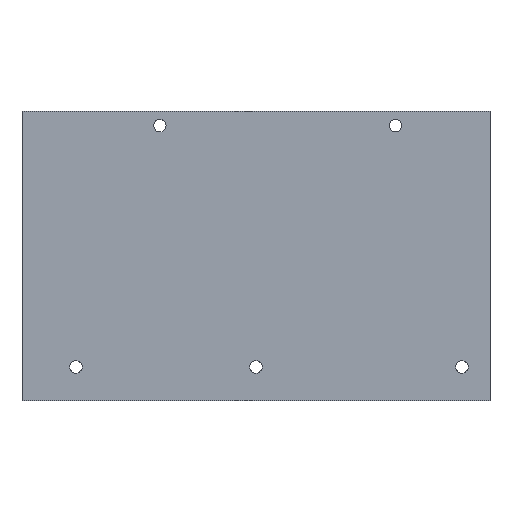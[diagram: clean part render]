
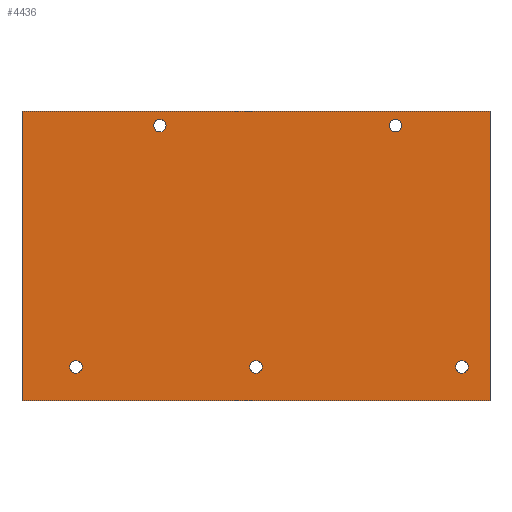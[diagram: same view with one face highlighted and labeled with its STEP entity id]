
A CAD part, front view. The second image highlights one B-rep face of the part: STEP entity #4436.
In plain terms, the highlighted planar face has unit normal (0, -1, 0).
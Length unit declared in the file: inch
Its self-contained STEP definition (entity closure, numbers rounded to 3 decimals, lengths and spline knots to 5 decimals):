
#56 = AXIS2_PLACEMENT_3D ( 'NONE', #238, #1358, #3856 ) ;
#57 = CIRCLE ( 'NONE', #1156, 0.06425 ) ;
#101 = VECTOR ( 'NONE', #191, 39.37008 ) ;
#113 = LINE ( 'NONE', #1483, #101 ) ;
#169 = EDGE_CURVE ( 'NONE', #4396, #678, #497, .T. ) ;
#191 = DIRECTION ( 'NONE',  ( -1., 0., 0. ) ) ;
#200 = VERTEX_POINT ( 'NONE', #3278 ) ;
#212 = DIRECTION ( 'NONE',  ( 0., -1., 0. ) ) ;
#238 = CARTESIAN_POINT ( 'NONE',  ( -0.996, 0.05, 2.85 ) ) ;
#256 = CARTESIAN_POINT ( 'NONE',  ( 1.447, 0.05, 2.85 ) ) ;
#261 = CIRCLE ( 'NONE', #1184, 0.06425 ) ;
#316 = EDGE_CURVE ( 'NONE', #678, #4396, #379, .T. ) ;
#329 = EDGE_CURVE ( 'NONE', #856, #3662, #376, .T. ) ;
#341 = CIRCLE ( 'NONE', #1372, 0.06425 ) ;
#347 = CIRCLE ( 'NONE', #1426, 0.06425 ) ;
#358 = CIRCLE ( 'NONE', #1487, 0.06425 ) ;
#376 = CIRCLE ( 'NONE', #1528, 0.06425 ) ;
#379 = CIRCLE ( 'NONE', #1586, 0.06425 ) ;
#380 = EDGE_CURVE ( 'NONE', #200, #2743, #358, .T. ) ;
#407 = EDGE_CURVE ( 'NONE', #4089, #1490, #347, .T. ) ;
#419 = EDGE_CURVE ( 'NONE', #820, #4097, #341, .T. ) ;
#497 = CIRCLE ( 'NONE', #1711, 0.06425 ) ;
#573 = DIRECTION ( 'NONE',  ( 0., 0., 1. ) ) ;
#640 = ORIENTED_EDGE ( 'NONE', *, *, #758, .T. ) ;
#647 = DIRECTION ( 'NONE',  ( 0., -1., 0. ) ) ;
#678 = VERTEX_POINT ( 'NONE', #1192 ) ;
#758 = EDGE_CURVE ( 'NONE', #2235, #1568, #113, .T. ) ;
#820 = VERTEX_POINT ( 'NONE', #4263 ) ;
#856 = VERTEX_POINT ( 'NONE', #1108 ) ;
#880 = ORIENTED_EDGE ( 'NONE', *, *, #1148, .F. ) ;
#995 = VERTEX_POINT ( 'NONE', #3321 ) ;
#1040 = EDGE_LOOP ( 'NONE', ( #1117, #2395 ) ) ;
#1067 = EDGE_LOOP ( 'NONE', ( #640, #1146, #2833, #1409 ) ) ;
#1074 = EDGE_CURVE ( 'NONE', #3662, #856, #261, .T. ) ;
#1088 = EDGE_LOOP ( 'NONE', ( #880, #1331 ) ) ;
#1092 = EDGE_LOOP ( 'NONE', ( #1526, #2723 ) ) ;
#1103 = EDGE_LOOP ( 'NONE', ( #1375, #2022 ) ) ;
#1108 = CARTESIAN_POINT ( 'NONE',  ( -0.00018, 0.05, 0.28575 ) ) ;
#1117 = ORIENTED_EDGE ( 'NONE', *, *, #1074, .F. ) ;
#1135 = EDGE_LOOP ( 'NONE', ( #1648, #2625 ) ) ;
#1145 = CARTESIAN_POINT ( 'NONE',  ( -0.00018, 0.05, 0.41425 ) ) ;
#1146 = ORIENTED_EDGE ( 'NONE', *, *, #4292, .F. ) ;
#1148 = EDGE_CURVE ( 'NONE', #2743, #200, #57, .T. ) ;
#1156 = AXIS2_PLACEMENT_3D ( 'NONE', #1577, #647, #4513 ) ;
#1184 = AXIS2_PLACEMENT_3D ( 'NONE', #2205, #1257, #573 ) ;
#1192 = CARTESIAN_POINT ( 'NONE',  ( 2.13382, 0.05, 0.28575 ) ) ;
#1217 = DIRECTION ( 'NONE',  ( 0., 1., 0. ) ) ;
#1257 = DIRECTION ( 'NONE',  ( 0., -1., 0. ) ) ;
#1331 = ORIENTED_EDGE ( 'NONE', *, *, #380, .F. ) ;
#1358 = DIRECTION ( 'NONE',  ( 0., -1., 0. ) ) ;
#1372 = AXIS2_PLACEMENT_3D ( 'NONE', #4521, #4555, #4489 ) ;
#1375 = ORIENTED_EDGE ( 'NONE', *, *, #169, .F. ) ;
#1409 = ORIENTED_EDGE ( 'NONE', *, *, #3990, .T. ) ;
#1426 = AXIS2_PLACEMENT_3D ( 'NONE', #3148, #1857, #2321 ) ;
#1439 = DIRECTION ( 'NONE',  ( 0., 0., 1. ) ) ;
#1445 = VERTEX_POINT ( 'NONE', #1740 ) ;
#1455 = CARTESIAN_POINT ( 'NONE',  ( -2.425, 0.05, 3. ) ) ;
#1476 = CARTESIAN_POINT ( 'NONE',  ( -2.425, 0.05, 0. ) ) ;
#1483 = CARTESIAN_POINT ( 'NONE',  ( -2.425, 0.05, 3. ) ) ;
#1487 = AXIS2_PLACEMENT_3D ( 'NONE', #1875, #4442, #3527 ) ;
#1490 = VERTEX_POINT ( 'NONE', #3933 ) ;
#1526 = ORIENTED_EDGE ( 'NONE', *, *, #2653, .F. ) ;
#1528 = AXIS2_PLACEMENT_3D ( 'NONE', #2909, #3991, #4337 ) ;
#1568 = VERTEX_POINT ( 'NONE', #1455 ) ;
#1577 = CARTESIAN_POINT ( 'NONE',  ( -1.86618, 0.05, 0.35 ) ) ;
#1586 = AXIS2_PLACEMENT_3D ( 'NONE', #2739, #2734, #2729 ) ;
#1587 = AXIS2_PLACEMENT_3D ( 'NONE', #256, #212, #2382 ) ;
#1648 = ORIENTED_EDGE ( 'NONE', *, *, #2374, .F. ) ;
#1711 = AXIS2_PLACEMENT_3D ( 'NONE', #3390, #3378, #3372 ) ;
#1740 = CARTESIAN_POINT ( 'NONE',  ( 2.425, 0.05, 0. ) ) ;
#1857 = DIRECTION ( 'NONE',  ( 0., -1., 0. ) ) ;
#1875 = CARTESIAN_POINT ( 'NONE',  ( -1.86618, 0.05, 0.35 ) ) ;
#2022 = ORIENTED_EDGE ( 'NONE', *, *, #316, .F. ) ;
#2205 = CARTESIAN_POINT ( 'NONE',  ( -0.00018, 0.05, 0.35 ) ) ;
#2235 = VERTEX_POINT ( 'NONE', #3395 ) ;
#2258 = CIRCLE ( 'NONE', #56, 0.06425 ) ;
#2321 = DIRECTION ( 'NONE',  ( 0., 0., 1. ) ) ;
#2374 = EDGE_CURVE ( 'NONE', #4097, #820, #2258, .T. ) ;
#2382 = DIRECTION ( 'NONE',  ( 0., 0., 1. ) ) ;
#2395 = ORIENTED_EDGE ( 'NONE', *, *, #329, .F. ) ;
#2625 = ORIENTED_EDGE ( 'NONE', *, *, #419, .F. ) ;
#2628 = CARTESIAN_POINT ( 'NONE',  ( 2.425, 0.05, 0. ) ) ;
#2653 = EDGE_CURVE ( 'NONE', #1490, #4089, #2791, .T. ) ;
#2723 = ORIENTED_EDGE ( 'NONE', *, *, #407, .F. ) ;
#2729 = DIRECTION ( 'NONE',  ( 0., 0., 1. ) ) ;
#2734 = DIRECTION ( 'NONE',  ( 0., -1., 0. ) ) ;
#2739 = CARTESIAN_POINT ( 'NONE',  ( 2.13382, 0.05, 0.35 ) ) ;
#2743 = VERTEX_POINT ( 'NONE', #4214 ) ;
#2791 = CIRCLE ( 'NONE', #1587, 0.06425 ) ;
#2833 = ORIENTED_EDGE ( 'NONE', *, *, #3634, .F. ) ;
#2909 = CARTESIAN_POINT ( 'NONE',  ( -0.00018, 0.05, 0.35 ) ) ;
#3148 = CARTESIAN_POINT ( 'NONE',  ( 1.447, 0.05, 2.85 ) ) ;
#3278 = CARTESIAN_POINT ( 'NONE',  ( -1.86618, 0.05, 0.28575 ) ) ;
#3321 = CARTESIAN_POINT ( 'NONE',  ( -2.425, 0.05, 0. ) ) ;
#3372 = DIRECTION ( 'NONE',  ( 0., 0., 1. ) ) ;
#3378 = DIRECTION ( 'NONE',  ( 0., -1., 0. ) ) ;
#3386 = CARTESIAN_POINT ( 'NONE',  ( -0.996, 0.05, 2.91425 ) ) ;
#3390 = CARTESIAN_POINT ( 'NONE',  ( 2.13382, 0.05, 0.35 ) ) ;
#3395 = CARTESIAN_POINT ( 'NONE',  ( 2.425, 0.05, 3. ) ) ;
#3527 = DIRECTION ( 'NONE',  ( 0., 0., 1. ) ) ;
#3634 = EDGE_CURVE ( 'NONE', #1445, #995, #3739, .T. ) ;
#3662 = VERTEX_POINT ( 'NONE', #1145 ) ;
#3686 = DIRECTION ( 'NONE',  ( -1., 0., 0. ) ) ;
#3724 = DIRECTION ( 'NONE',  ( 0., 0., 1. ) ) ;
#3739 = LINE ( 'NONE', #4733, #3780 ) ;
#3764 = CARTESIAN_POINT ( 'NONE',  ( 1.447, 0.05, 2.78575 ) ) ;
#3780 = VECTOR ( 'NONE', #3686, 39.37008 ) ;
#3799 = PLANE ( 'NONE',  #4102 ) ;
#3856 = DIRECTION ( 'NONE',  ( 0., 0., 1. ) ) ;
#3933 = CARTESIAN_POINT ( 'NONE',  ( 1.447, 0.05, 2.91425 ) ) ;
#3990 = EDGE_CURVE ( 'NONE', #1445, #2235, #4079, .T. ) ;
#3991 = DIRECTION ( 'NONE',  ( 0., -1., 0. ) ) ;
#4079 = LINE ( 'NONE', #2628, #4172 ) ;
#4089 = VERTEX_POINT ( 'NONE', #3764 ) ;
#4097 = VERTEX_POINT ( 'NONE', #3386 ) ;
#4102 = AXIS2_PLACEMENT_3D ( 'NONE', #4669, #1217, #3724 ) ;
#4172 = VECTOR ( 'NONE', #4432, 39.37008 ) ;
#4214 = CARTESIAN_POINT ( 'NONE',  ( -1.86618, 0.05, 0.41425 ) ) ;
#4263 = CARTESIAN_POINT ( 'NONE',  ( -0.996, 0.05, 2.78575 ) ) ;
#4292 = EDGE_CURVE ( 'NONE', #995, #1568, #4398, .T. ) ;
#4337 = DIRECTION ( 'NONE',  ( 0., 0., 1. ) ) ;
#4375 = CARTESIAN_POINT ( 'NONE',  ( 2.13382, 0.05, 0.41425 ) ) ;
#4396 = VERTEX_POINT ( 'NONE', #4375 ) ;
#4398 = LINE ( 'NONE', #1476, #4419 ) ;
#4419 = VECTOR ( 'NONE', #1439, 39.37008 ) ;
#4432 = DIRECTION ( 'NONE',  ( 0., 0., 1. ) ) ;
#4436 = ADVANCED_FACE ( 'NONE', ( #4528, #4524, #4499, #4531, #4502, #4535 ), #3799, .F. ) ;
#4442 = DIRECTION ( 'NONE',  ( 0., -1., 0. ) ) ;
#4489 = DIRECTION ( 'NONE',  ( 0., 0., 1. ) ) ;
#4499 = FACE_OUTER_BOUND ( 'NONE', #1067, .T. ) ;
#4502 = FACE_BOUND ( 'NONE', #1088, .T. ) ;
#4513 = DIRECTION ( 'NONE',  ( 0., 0., 1. ) ) ;
#4521 = CARTESIAN_POINT ( 'NONE',  ( -0.996, 0.05, 2.85 ) ) ;
#4524 = FACE_BOUND ( 'NONE', #1092, .T. ) ;
#4528 = FACE_BOUND ( 'NONE', #1040, .T. ) ;
#4531 = FACE_BOUND ( 'NONE', #1135, .T. ) ;
#4535 = FACE_BOUND ( 'NONE', #1103, .T. ) ;
#4555 = DIRECTION ( 'NONE',  ( 0., -1., 0. ) ) ;
#4669 = CARTESIAN_POINT ( 'NONE',  ( -2.425, 0.05, 0. ) ) ;
#4733 = CARTESIAN_POINT ( 'NONE',  ( -2.425, 0.05, 0. ) ) ;
